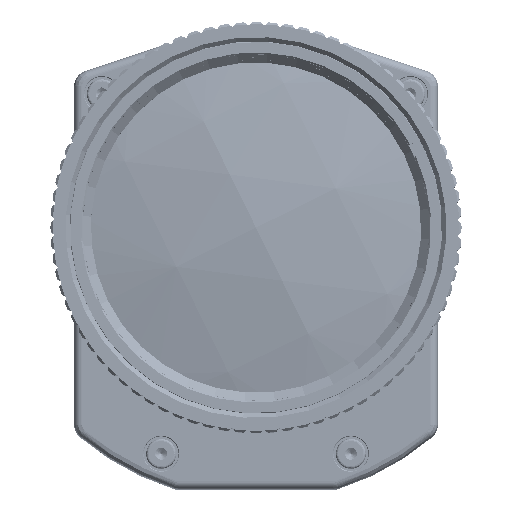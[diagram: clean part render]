
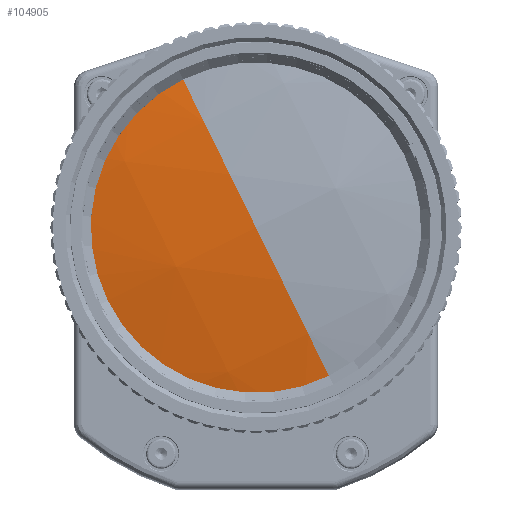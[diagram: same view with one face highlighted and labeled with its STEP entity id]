
A CAD part, top view. The second image highlights one B-rep face of the part: STEP entity #104905.
In plain terms, the highlighted spherical face has radius 102.03 mm.
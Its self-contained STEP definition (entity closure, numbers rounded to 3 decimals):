
#3858 = DIRECTION ( 'NONE',  ( 1., 0., 0. ) ) ;
#4265 = EDGE_LOOP ( 'NONE', ( #169629, #122048, #170670 ) ) ;
#13628 = VERTEX_POINT ( 'NONE', #123720 ) ;
#20757 = CIRCLE ( 'NONE', #113178, 22.3 ) ;
#25076 = EDGE_CURVE ( 'NONE', #104456, #133568, #43851, .T. ) ;
#42338 = FACE_OUTER_BOUND ( 'NONE', #4265, .T. ) ;
#43851 = CIRCLE ( 'NONE', #68406, 102.03 ) ;
#49030 = CARTESIAN_POINT ( 'NONE',  ( 0., 98.02, 0. ) ) ;
#52918 = EDGE_CURVE ( 'NONE', #104456, #13628, #20757, .T. ) ;
#56208 = CARTESIAN_POINT ( 'NONE',  ( 0., 98.02, 0. ) ) ;
#59450 = CARTESIAN_POINT ( 'NONE',  ( 0., -1.543, 0. ) ) ;
#60018 = AXIS2_PLACEMENT_3D ( 'NONE', #49030, #142344, #62360 ) ;
#62360 = DIRECTION ( 'NONE',  ( 0., 0., 1. ) ) ;
#68406 = AXIS2_PLACEMENT_3D ( 'NONE', #83764, #3858, #97189 ) ;
#71309 = CARTESIAN_POINT ( 'NONE',  ( 0., -4.01, 0. ) ) ;
#72918 = DIRECTION ( 'NONE',  ( 0., 0., -1. ) ) ;
#83128 = DIRECTION ( 'NONE',  ( -1., 0., 0. ) ) ;
#83764 = CARTESIAN_POINT ( 'NONE',  ( 0., 98.02, 0. ) ) ;
#96524 = DIRECTION ( 'NONE',  ( 0., 0., 1. ) ) ;
#97189 = DIRECTION ( 'NONE',  ( 0., 0., -1. ) ) ;
#104187 = CIRCLE ( 'NONE', #60018, 102.03 ) ;
#104456 = VERTEX_POINT ( 'NONE', #162602 ) ;
#104905 = ADVANCED_FACE ( 'NONE', ( #42338 ), #113331, .T. ) ;
#113178 = AXIS2_PLACEMENT_3D ( 'NONE', #59450, #152827, #72918 ) ;
#113331 = SPHERICAL_SURFACE ( 'NONE', #116854, 102.03 ) ;
#116854 = AXIS2_PLACEMENT_3D ( 'NONE', #56208, #83128, #96524 ) ;
#122048 = ORIENTED_EDGE ( 'NONE', *, *, #150539, .T. ) ;
#123720 = CARTESIAN_POINT ( 'NONE',  ( 0., -1.543, -22.3 ) ) ;
#133568 = VERTEX_POINT ( 'NONE', #71309 ) ;
#142344 = DIRECTION ( 'NONE',  ( -1., 0., 0. ) ) ;
#150539 = EDGE_CURVE ( 'NONE', #13628, #133568, #104187, .T. ) ;
#152827 = DIRECTION ( 'NONE',  ( 0., -1., 0. ) ) ;
#162602 = CARTESIAN_POINT ( 'NONE',  ( 0., -1.543, 22.3 ) ) ;
#169629 = ORIENTED_EDGE ( 'NONE', *, *, #52918, .T. ) ;
#170670 = ORIENTED_EDGE ( 'NONE', *, *, #25076, .F. ) ;
